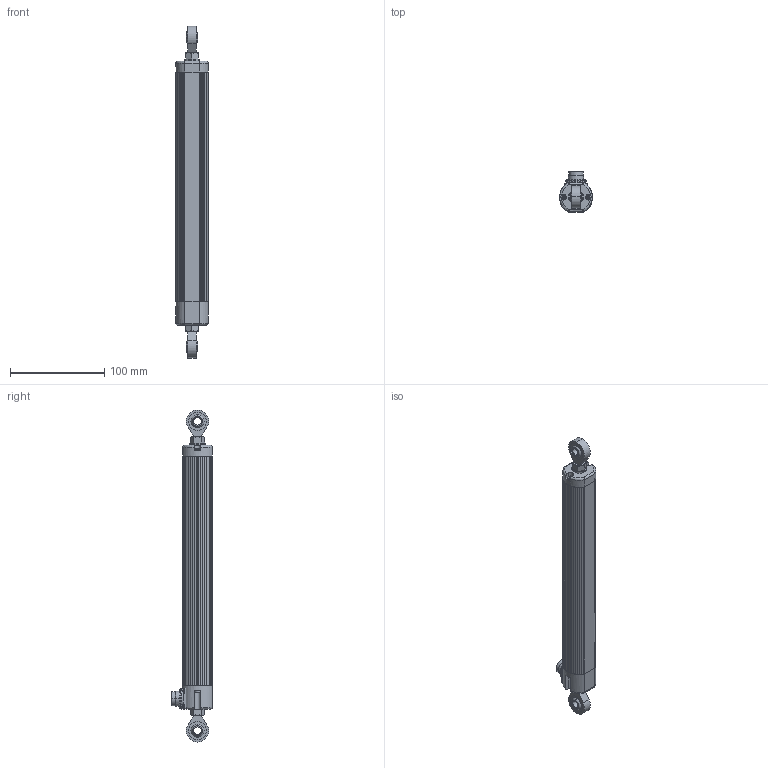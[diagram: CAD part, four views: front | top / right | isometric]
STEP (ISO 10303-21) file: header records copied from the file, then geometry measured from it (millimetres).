
FILE_DESCRIPTION (( 'STEP AP203' ), '1' );
FILE_NAME ('RC35 150 S.STEP', '2025-04-03T13:42:13', ( '' ), ( '' ), 'SwSTEP 2.0', 'SolidWorks 2024', '' );
FILE_SCHEMA (( 'CONFIG_CONTROL_DESIGN' ));
Length unit declared in the file: millimetre
Products named in the file (1): RC35 150 S
Bounding box: 34.97 x 43.1 x 353 mm (x, y, z)
Volume: 284807.3 mm3; surface area: 56184.1 mm2
Topology: 11 solids, 11 shells, 485 faces, 1238 edges, 789 vertices
Faces by surface type: plane 241, cylinder 141, cone 40, sphere 34, torus 29
Entity records: 15587 total; most frequent: CARTESIAN_POINT 3458, DIRECTION 2673, ORIENTED_EDGE 2456, EDGE_CURVE 1228, AXIS2_PLACEMENT_3D 1039, VERTEX_POINT 789, LINE 595, VECTOR 595
